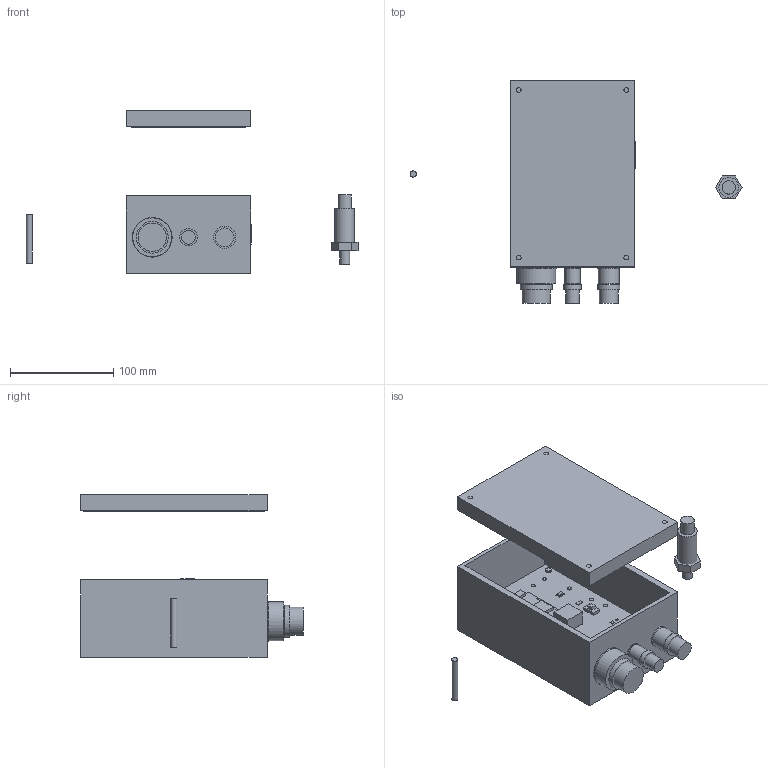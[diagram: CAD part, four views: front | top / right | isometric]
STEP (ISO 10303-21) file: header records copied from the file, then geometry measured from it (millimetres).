
FILE_DESCRIPTION(('FreeCAD Model'),'2;1');
FILE_NAME('Open CASCADE Shape Model','2026-11-16T18:56:37',('FreeCAD'),( 'FreeCAD'),'Open CASCADE STEP processor 7.8','FreeCAD','Unknown');
FILE_SCHEMA(('AUTOMOTIVE_DESIGN { 1 0 10303 214 1 1 1 1 }'));
Length unit declared in the file: millimetre
Products named in the file (1): Open CASCADE STEP translator 7.8 2
Bounding box: 320.82 x 215 x 157.5 mm (x, y, z)
Volume: 565205.6 mm3; surface area: 274481.1 mm2
Topology: 116 solids, 116 shells, 622 faces, 1140 edges, 760 vertices
Faces by surface type: plane 552, cylinder 70
Full cylindrical faces by diameter (mm): 1.8 x7, 3.3 x4, 3.4 x4, 4 x7, 4.6 x4, 5.4 x4, 6 x1, 6.8 x2, 7 x1, 9 x4, 9.6 x1, 10.8 x1, 11 x2, 11.4 x1, 12 x1, 13 x1, 13.4 x1, 14.8 x1, 15 x2, 15.4 x1, 15.8 x2, 16 x1, 16.8 x1, 17.6 x1, 18 x1, 18.9 x1, 19.6 x1, 19.8 x1, 20 x1, 20.2 x1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
Entity records: 14968 total; most frequent: DIRECTION 2526, CARTESIAN_POINT 2523, ORIENTED_EDGE 2280, EDGE_CURVE 1140, LINE 1000, VECTOR 1000, AXIS2_PLACEMENT_3D 763, VERTEX_POINT 760
